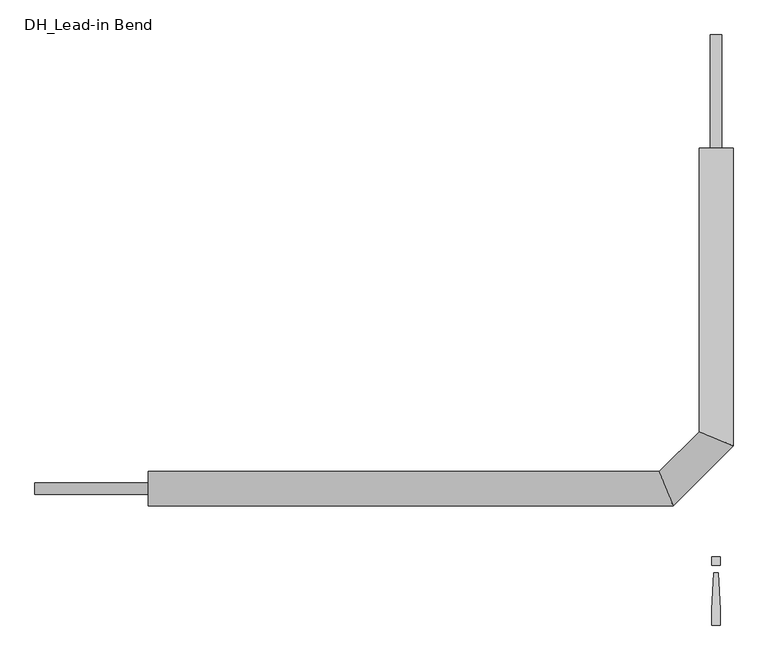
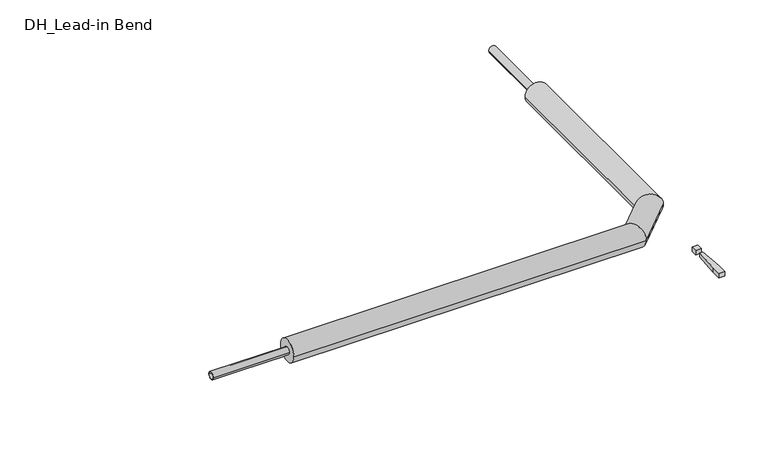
"""IFC4 building model written with IfcOpenShell, lengths in millimetres: pipe fitting geometry, DH_Lead-in Bend : INSULPEX UNO 11 Heating."""

from ifc_helpers import new_model, si_unit, point, frame, origin, origin_with_axes, origin_2d, place, context, project, spatial, polyline, circle_curve, ellipse_curve, trimmed, segment, composite_curve, outline, extrude, source, transform, mapped, element, save
from ifc_brep_helpers import plane_surface, cylinder_surface, advanced_brep


def dh_lead_in_bend_619dd2a3(model_context):
    return source(origin(), model_context, "Body", "SolidModel", [
        advanced_brep(
        [(-1250.0, -37.5, 0.0), (-1250.0, 37.5, 0.0), (-94.4669914, -37.5, 0.0), (-125.5330086, 37.5, 0.0), (37.5, 750.0, 0.0), (-37.5, 750.0, 0.0), (-37.5, 125.5330086, 0.0), (37.5, 94.4669914, 0.0)],
        [
            (0, 1, circle_curve(frame((-1250.0, 0.0, 0.0), z_axis=(-1.0, 0.0, 0.0), x_axis=(0.0, 1.0, 0.0)), 37.5)),
            (1, 0, circle_curve(frame((-1250.0, 0.0, 0.0), z_axis=(-1.0, 0.0, 0.0), x_axis=(0.0, 1.0, 0.0)), 37.5)),
            (0, 2),
            (2, 3, ellipse_curve(frame((-110.0, 0.0, 0.0), z_axis=(-0.9238795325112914, -0.3826834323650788, 0.0), x_axis=(-0.38268343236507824, 0.9238795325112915, 0.0)), 40.5897075, 37.5)),
            (3, 1),
            (3, 2, ellipse_curve(frame((-110.0, 0.0, 0.0), z_axis=(-0.9238795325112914, -0.3826834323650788, 0.0), x_axis=(-0.38268343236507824, 0.9238795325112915, 0.0)), 40.5897075, 37.5)),
            (4, 5, circle_curve(frame((0.0, 750.0, 0.0), z_axis=(0.0, 1.0, 0.0), x_axis=(-1.0, 0.0, 0.0)), 37.5)),
            (5, 4, circle_curve(frame((0.0, 750.0, 0.0), z_axis=(0.0, 1.0, 0.0), x_axis=(-1.0, 0.0, 0.0)), 37.5)),
            (6, 7, ellipse_curve(frame((0.0, 110.0, 0.0), z_axis=(0.38268343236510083, 0.9238795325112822, 0.0), x_axis=(0.9238795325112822, -0.3826834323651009, 0.0)), 40.5897075, 37.5)),
            (7, 4),
            (5, 6),
            (7, 6, ellipse_curve(frame((0.0, 110.0, 0.0), z_axis=(0.38268343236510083, 0.9238795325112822, 0.0), x_axis=(0.9238795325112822, -0.3826834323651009, 0.0)), 40.5897075, 37.5)),
            (2, 7),
            (6, 3),
        ],
        [
            plane_surface(frame((-1250.0, 0.0, 0.0), z_axis=(-1.0, 0.0, 0.0), x_axis=(0.0, 0.0, 1.0))),
            cylinder_surface(frame((-1250.0, 0.0, 0.0), z_axis=(-1.0, 0.0, 0.0), x_axis=(0.0, 1.0, 0.0)), 37.5),
            plane_surface(frame((0.0, 750.0, 0.0), z_axis=(0.0, 1.0, 0.0), x_axis=(0.0, 0.0, 1.0))),
            cylinder_surface(frame((0.0, 110.0, 0.0), z_axis=(0.0, -1.0, 0.0), x_axis=(-1.0, 0.0, 0.0)), 37.5),
            cylinder_surface(frame((-110.0, 0.0, 0.0), z_axis=(-0.7071067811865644, -0.7071067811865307, 0.0), x_axis=(-0.7071067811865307, 0.7071067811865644, 0.0)), 37.5),
        ],
        [
            (0, [[1, 2]]),
            (1, [[-1, 3, 4, 5]]),
            (1, [[-2, -5, 6, -3]]),
            (2, [[7, 8]]),
            (3, [[9, 10, -8, 11]]),
            (3, [[12, -11, -7, -10]]),
            (4, [[-4, 13, -9, 14]]),
            (4, [[-6, -14, -12, -13]]),
        ],
    ),
        extrude(outline(polyline([(4.7088895, -185.3166715), (9.4177791, -266.6553807), (9.4177791, -300.6844652), (-9.4177791, -300.6844652), (-9.4177791, -266.6553807), (-4.7088895, -185.3166715), (4.7088895, -185.3166715)])), origin_with_axes(), (0.0, 0.0, 1.0), 15.0),
        extrude(outline(polyline([(9.4177791, -150.0), (9.4177791, -168.8355582), (-9.4177791, -168.8355582), (-9.4177791, -150.0), (9.4177791, -150.0)])), origin_with_axes(), (0.0, 0.0, 1.0), 15.0),
        extrude(outline(composite_curve([segment(trimmed(circle_curve(origin_2d(), 12.5), [point((-12.5, 0.0))], [point((12.5, 0.0))], False, "CARTESIAN"), True, "CONTINUOUS"), segment(trimmed(circle_curve(origin_2d(), 12.5), [point((12.5, 0.0))], [point((-12.5, 0.0))], False, "CARTESIAN"), True, "CONTINUOUS")], self_intersect=False), holes=[composite_curve([segment(trimmed(circle_curve(origin_2d(), 10.2), [point((-10.2, 0.0))], [point((10.2, 0.0))], True, "CARTESIAN"), True, "CONTINUOUS"), segment(trimmed(circle_curve(origin_2d(), 10.2), [point((10.2, 0.0))], [point((-10.2, 0.0))], True, "CARTESIAN"), True, "CONTINUOUS")], self_intersect=False)]), frame((-1500.0, 0.0, 0.0), z_axis=(1.0, 0.0, 0.0), x_axis=(0.0, 1.0, 0.0)), (0.0, 0.0, 1.0), 250.0),
        extrude(outline(composite_curve([segment(trimmed(circle_curve(origin_2d(), 12.5), [point((0.0, 12.5))], [point((0.0, -12.5))], False, "CARTESIAN"), True, "CONTINUOUS"), segment(trimmed(circle_curve(origin_2d(), 12.5), [point((0.0, -12.5))], [point((0.0, 12.5))], False, "CARTESIAN"), True, "CONTINUOUS")], self_intersect=False), holes=[composite_curve([segment(trimmed(circle_curve(origin_2d(), 10.2), [point((0.0, 10.2))], [point((0.0, -10.2))], True, "CARTESIAN"), True, "CONTINUOUS"), segment(trimmed(circle_curve(origin_2d(), 10.2), [point((0.0, -10.2))], [point((0.0, 10.2))], True, "CARTESIAN"), True, "CONTINUOUS")], self_intersect=False)]), frame((0.0, 750.0, 0.0), z_axis=(0.0, 1.0, 0.0), x_axis=(0.0, 0.0, 1.0)), (0.0, 0.0, 1.0), 250.0),
    ])


if __name__ == "__main__":
    model = new_model("IFC4")
    model_context = context("Model", 3, world=origin())
    ifc_project = project(units=[si_unit("LENGTHUNIT", "METRE", prefix="MILLI")], contexts=[model_context])
    site = spatial("IfcSite", under=ifc_project)
    building = spatial("IfcBuilding", under=site)
    placement = place(None, origin())
    dh_lead_in_bend_shape = dh_lead_in_bend_619dd2a3(model_context)
    element("IfcPipeFitting", 1, ObjectType="DH_Lead-in Bend : INSULPEX UNO 11 Heating", at=placement, inside=building, context=model_context, shape_type="MappedRepresentation", body=[
        mapped(dh_lead_in_bend_shape, transform((0.0, 0.0, 0.0), x_axis=(1.0, 0.0, 0.0), y_axis=(0.0, 1.0, 0.0), z_axis=(0.0, 0.0, 1.0))),
    ])
    save(model, "model.ifc")
